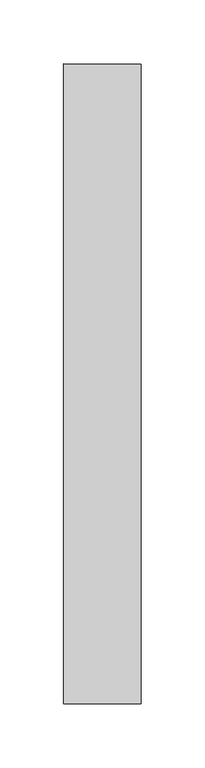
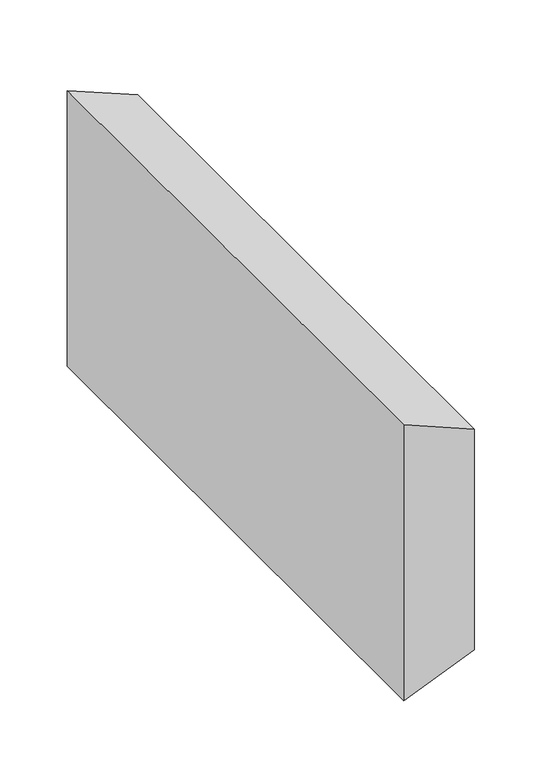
"""IFC4 building model written with IfcOpenShell, lengths in millimetres: duct fitting geometry, M_Transición rectangular - Ángulo : APT_45 graus."""

import ifcopenshell
import ifcopenshell.guid

model = None  # the IFC model being written
_history = None  # IfcOwnerHistory: only IFC2X3 demands one
_inside = {}  # id of a spatial element -> (the spatial element, [elements in it])
_under = {}  # id of a project, library or spatial element -> (it, [spatial elements below it])
_declared = {}  # id of a project -> (the project, [libraries it declares])
_typed = {}  # id of a type object -> (the type object, [elements of that type])
_made_of = {}  # id of a material, layer set ... -> (it, [elements and type objects made of it])


def new_model(schema):
    """Start an empty IFC model of exactly this schema.

    Asked for "IFC4X3", IfcOpenShell would pick the latest addendum, in which some entities
    have other attributes; the version numbers below select the first issue.
    IFC2X3 requires an IfcOwnerHistory on every rooted entity: one is made here for all.
    """
    global model, _history
    if schema == "IFC4X3":
        model = ifcopenshell.file(schema_version=(4, 3, 0, 0))
    else:
        model = ifcopenshell.file(schema=schema)
    _inside.clear()
    _under.clear()
    _declared.clear()
    _typed.clear()
    _made_of.clear()
    _history = None
    if model.schema == "IFC2X3":
        org = make("IfcOrganization", Name="unknown")
        user = make(
            "IfcPersonAndOrganization",
            ThePerson=make("IfcPerson", FamilyName="unknown"),
            TheOrganization=org,
        )
        app = make(
            "IfcApplication",
            ApplicationDeveloper=org,
            Version="unknown",
            ApplicationFullName="unknown",
            ApplicationIdentifier="unknown",
        )
        _history = make(
            "IfcOwnerHistory",
            OwningUser=user,
            OwningApplication=app,
            ChangeAction="ADDED",
            CreationDate=0,
        )
    return model


def make(cls, **values):
    """One entity of the class cls with the attributes given. An attribute that is None is left unset."""
    return model.create_entity(
        cls, **{name: value for name, value in values.items() if value is not None}
    )


def rooted(cls, **values):
    """An entity with a GlobalId (a new one), such as an element, a storey or a relation."""
    return make(cls, GlobalId=ifcopenshell.guid.new(), OwnerHistory=_history, **values)


def si_unit(unit_type, name, prefix=None):
    """IfcSIUnit, for example si_unit("LENGTHUNIT", "METRE", prefix="MILLI")."""
    return make("IfcSIUnit", UnitType=unit_type, Prefix=prefix, Name=name)


def assignment(units):
    """IfcUnitAssignment: the units of a project."""
    return None if units is None else make("IfcUnitAssignment", Units=units)


def point(xyz):
    """IfcCartesianPoint."""
    return None if xyz is None else make("IfcCartesianPoint", Coordinates=xyz)


def direction(xyz):
    """IfcDirection."""
    return None if xyz is None else make("IfcDirection", DirectionRatios=xyz)


def frame(location, z_axis=None, x_axis=None):
    """IfcAxis2Placement3D, a coordinate frame: its origin and axes. An axis left out is left unset."""
    return make(
        "IfcAxis2Placement3D",
        Location=point(location),
        Axis=direction(z_axis),
        RefDirection=direction(x_axis),
    )


def origin():
    """The frame at (0, 0, 0) with its axes left unset."""
    return frame((0.0, 0.0, 0.0))


def place(relative_to, where):
    """IfcLocalPlacement: puts the frame where relative to a parent placement (None: the world)."""
    return make(
        "IfcLocalPlacement", PlacementRelTo=relative_to, RelativePlacement=where
    )


def context(
    kind, dimensions, precision=None, world=None, true_north=None, identifier=None
):
    """IfcGeometricRepresentationContext, for example the 3D "Model" context."""
    return make(
        "IfcGeometricRepresentationContext",
        ContextIdentifier=identifier,
        ContextType=kind,
        CoordinateSpaceDimension=dimensions,
        Precision=precision,
        WorldCoordinateSystem=world,
        TrueNorth=true_north,
    )


def project(units=None, contexts=None):
    """IfcProject with its units and contexts."""
    return rooted(
        "IfcProject",
        Name="project",
        RepresentationContexts=contexts,
        UnitsInContext=assignment(units),
    )


def spatial(cls, under=None, at=None, **own):
    """A site, building, storey or space (cls), placed at a placement, below another one or the project."""
    s = rooted(cls, ObjectPlacement=at, **own)
    if under is not None:
        _under.setdefault(under.id(), (under, []))[1].append(s)
    return s


def polyline(points):
    """IfcPolyline through the points."""
    return make("IfcPolyline", Points=[point(p) for p in points])


def outline(outer, holes=None, kind="AREA"):
    """IfcArbitraryClosedProfileDef: a profile drawn as a closed curve; with holes, ...WithVoids."""
    if holes is None:
        return make("IfcArbitraryClosedProfileDef", ProfileType=kind, OuterCurve=outer)
    return make(
        "IfcArbitraryProfileDefWithVoids",
        ProfileType=kind,
        OuterCurve=outer,
        InnerCurves=holes,
    )


def extrude(swept, where, along, depth):
    """IfcExtrudedAreaSolid: the profile swept, set in the frame where, extruded along a direction by depth."""
    return make(
        "IfcExtrudedAreaSolid",
        SweptArea=swept,
        Position=where,
        ExtrudedDirection=direction(along),
        Depth=depth,
    )


def shape(context_of_items, identifier, shape_type, items):
    """IfcShapeRepresentation: the items that make up one representation, for example the "Body"."""
    return make(
        "IfcShapeRepresentation",
        ContextOfItems=context_of_items,
        RepresentationIdentifier=identifier,
        RepresentationType=shape_type,
        Items=items,
    )


def source(mapping_origin, context_of_items, identifier, shape_type, items):
    """IfcRepresentationMap: a shape defined once, which mapped items show again and again."""
    return make(
        "IfcRepresentationMap",
        MappingOrigin=mapping_origin,
        MappedRepresentation=shape(context_of_items, identifier, shape_type, items),
    )


def transform(
    local_origin,
    x_axis=None,
    y_axis=None,
    z_axis=None,
    scale=None,
    scale2=None,
    scale3=None,
    uniform=True,
):
    """IfcCartesianTransformationOperator3D, or its non-uniform kind. x_axis, y_axis, z_axis: its Axis1, 2, 3."""
    if uniform:
        return make(
            "IfcCartesianTransformationOperator3D",
            Axis1=direction(x_axis),
            Axis2=direction(y_axis),
            LocalOrigin=point(local_origin),
            Scale=scale,
            Axis3=direction(z_axis),
        )
    return make(
        "IfcCartesianTransformationOperator3DnonUniform",
        Axis1=direction(x_axis),
        Axis2=direction(y_axis),
        LocalOrigin=point(local_origin),
        Scale=scale,
        Axis3=direction(z_axis),
        Scale2=scale2,
        Scale3=scale3,
    )


def mapped(mapping_source, mapping_target):
    """IfcMappedItem: shows the shape of a source again, moved by a transform."""
    return make(
        "IfcMappedItem", MappingSource=mapping_source, MappingTarget=mapping_target
    )


def made_of(thing, what):
    """Note that an element or type object is made of a material, layer set ...; save() writes the relation."""
    if what is not None:
        _made_of.setdefault(what.id(), (what, []))[1].append(thing)
    return thing


def element(
    cls,
    number,
    at=None,
    inside=None,
    cuts=None,
    type_object=None,
    material=None,
    context=None,
    identifier="Body",
    shape_type=None,
    held_by="IfcProductDefinitionShape",
    body=None,
    shapes=None,
    **own,
):
    """One element of the class cls, such as IfcWall. Its Tag is "e" and its number.

    at: its placement. inside: the storey or other place that contains it. cuts: it is an
    opening in that element (IfcRelVoidsElement). A single representation is given by context,
    identifier, shape_type and body (its items); several are given by shapes. held_by: the class
    of the entity that holds the representations. save() writes the other relations.
    """
    e = rooted(cls, Tag="e%d" % number, ObjectPlacement=at, **own)
    if body is not None:
        shapes = [shape(context, identifier, shape_type, body)]
    if shapes is not None:
        e.Representation = make(held_by, Representations=shapes)
    if inside is not None:
        _inside.setdefault(inside.id(), (inside, []))[1].append(e)
    if cuts is not None:
        rooted(
            "IfcRelVoidsElement", RelatingBuildingElement=cuts, RelatedOpeningElement=e
        )
    if type_object is not None:
        _typed.setdefault(type_object.id(), (type_object, []))[1].append(e)
    return made_of(e, material)


def aggregate(whole, parts):
    """IfcRelAggregates: a whole, such as a stair, and the parts it consists of."""
    return rooted("IfcRelAggregates", RelatingObject=whole, RelatedObjects=parts)


def save(model, path):
    """Write the relations noted so far, then the file.

    IfcRelAggregates (storeys below a building ...), IfcRelContainedInSpatialStructure (elements
    in a storey), IfcRelDefinesByType, IfcRelAssociatesMaterial and IfcRelDeclares: one each for
    every whole, place, type object, material and project.
    """
    for whole, parts in _under.values():
        aggregate(whole, parts)
    for where, things in _inside.values():
        rooted(
            "IfcRelContainedInSpatialStructure",
            RelatedElements=things,
            RelatingStructure=where,
        )
    for kind, things in _typed.values():
        rooted("IfcRelDefinesByType", RelatedObjects=things, RelatingType=kind)
    for what, things in _made_of.values():
        rooted("IfcRelAssociatesMaterial", RelatedObjects=things, RelatingMaterial=what)
    for by, libraries in _declared.values():
        rooted("IfcRelDeclares", RelatingContext=by, RelatedDefinitions=libraries)
    model.write(path)


def duct_fitting_a79acc03(model_context):
    return source(origin(), model_context, "Body", "SweptSolid", [
        extrude(outline(polyline([(125.0, 0.0), (-125.0, 0.0), (-100.0, 60.3553391), (100.0, 60.3553391), (125.0, 0.0)])), frame((0.0, -250.0, 0.0), z_axis=(0.0, 1.0, 0.0), x_axis=(0.0, 0.0, 1.0)), (0.0, 0.0, 1.0), 500.0),
    ])


if __name__ == "__main__":
    model = new_model("IFC4")
    model_context = context("Model", 3, world=origin())
    ifc_project = project(units=[si_unit("LENGTHUNIT", "METRE", prefix="MILLI")], contexts=[model_context])
    site = spatial("IfcSite", under=ifc_project)
    building = spatial("IfcBuilding", under=site)
    placement = place(None, origin())
    duct_fitting_shape = duct_fitting_a79acc03(model_context)
    element("IfcDuctFitting", 1, ObjectType="M_Transición rectangular - Ángulo : APT_45 graus", at=placement, inside=building, context=model_context, shape_type="MappedRepresentation", body=[
        mapped(duct_fitting_shape, transform((0.0, 0.0, 0.0), x_axis=(1.0, 0.0, 0.0), y_axis=(0.0, 1.0, 0.0), z_axis=(0.0, 0.0, 1.0))),
    ])
    save(model, "model.ifc")
